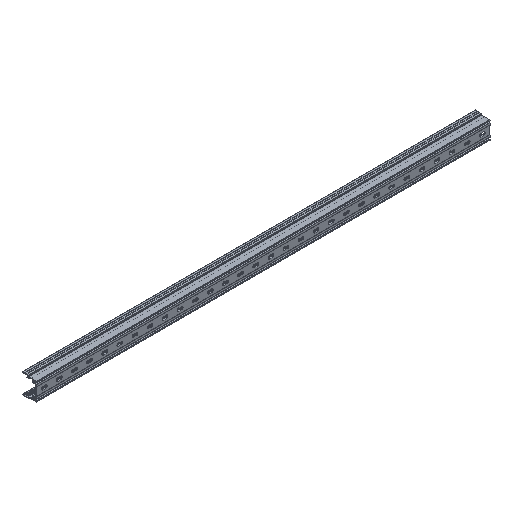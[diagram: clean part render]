
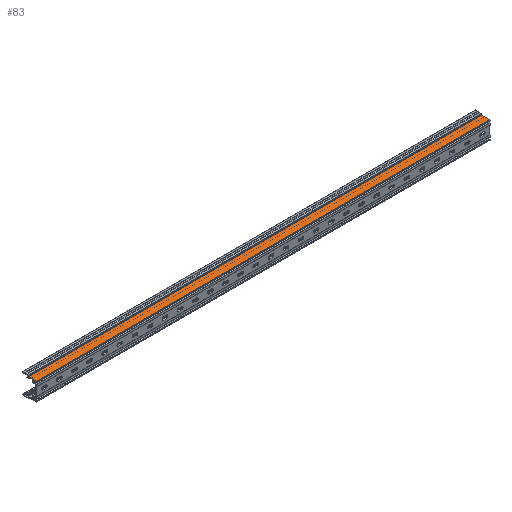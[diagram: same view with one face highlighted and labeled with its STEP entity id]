
A CAD part, isometric view. The second image highlights one B-rep face of the part: STEP entity #83.
In plain terms, the highlighted planar face has unit normal (0, 0, 1).
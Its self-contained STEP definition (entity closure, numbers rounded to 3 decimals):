
#83 = ADVANCED_FACE( '', ( #354 ), #355, .F. );
#354 = FACE_OUTER_BOUND( '', #878, .T. );
#355 = PLANE( '', #879 );
#878 = EDGE_LOOP( '', ( #1532, #1533, #1534, #1535 ) );
#879 = AXIS2_PLACEMENT_3D( '', #1536, #1537, #1538 );
#1532 = ORIENTED_EDGE( '', *, *, #3578, .T. );
#1533 = ORIENTED_EDGE( '', *, *, #3579, .F. );
#1534 = ORIENTED_EDGE( '', *, *, #3580, .F. );
#1535 = ORIENTED_EDGE( '', *, *, #3576, .T. );
#1536 = CARTESIAN_POINT( '', ( 810., 15.19, 16. ) );
#1537 = DIRECTION( '', ( 0., 0., -1. ) );
#1538 = DIRECTION( '', ( -1., 0., 0. ) );
#3576 = EDGE_CURVE( '', #4405, #4403, #4406, .T. );
#3578 = EDGE_CURVE( '', #4403, #4408, #4409, .T. );
#3579 = EDGE_CURVE( '', #4410, #4408, #4411, .T. );
#3580 = EDGE_CURVE( '', #4405, #4410, #4412, .T. );
#4403 = VERTEX_POINT( '', #5632 );
#4405 = VERTEX_POINT( '', #5635 );
#4406 = LINE( '', #5636, #5637 );
#4408 = VERTEX_POINT( '', #5640 );
#4409 = LINE( '', #5641, #5642 );
#4410 = VERTEX_POINT( '', #5643 );
#4411 = LINE( '', #5644, #5645 );
#4412 = LINE( '', #5646, #5647 );
#5632 = CARTESIAN_POINT( '', ( 0., 15.19, 16. ) );
#5635 = CARTESIAN_POINT( '', ( 810., 15.19, 16. ) );
#5636 = CARTESIAN_POINT( '', ( 810., 15.19, 16. ) );
#5637 = VECTOR( '', #7180, 1000. );
#5640 = CARTESIAN_POINT( '', ( 0., 0.3, 16. ) );
#5641 = CARTESIAN_POINT( '', ( 0., 15.19, 16. ) );
#5642 = VECTOR( '', #7182, 1000. );
#5643 = CARTESIAN_POINT( '', ( 810., 0.3, 16. ) );
#5644 = CARTESIAN_POINT( '', ( 810., 0.3, 16. ) );
#5645 = VECTOR( '', #7183, 1000. );
#5646 = CARTESIAN_POINT( '', ( 810., 15.19, 16. ) );
#5647 = VECTOR( '', #7184, 1000. );
#7180 = DIRECTION( '', ( -1., 0., 0. ) );
#7182 = DIRECTION( '', ( 0., -1., 0. ) );
#7183 = DIRECTION( '', ( -1., 0., 0. ) );
#7184 = DIRECTION( '', ( 0., -1., 0. ) );
